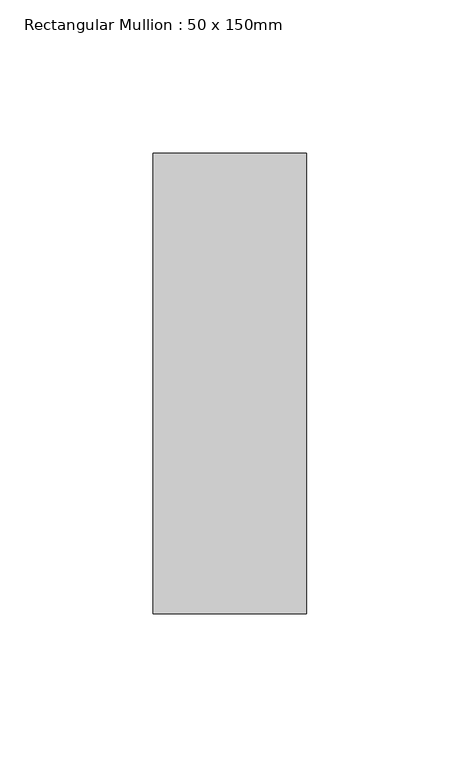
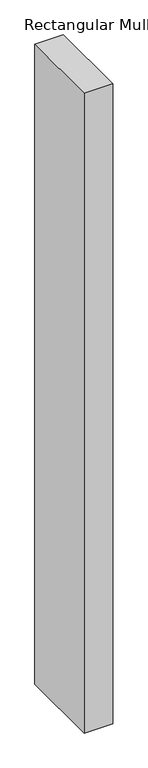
"""IFC4 building model written with IfcOpenShell, lengths in millimetres: member geometry, Rectangular Mullion : 50 x 150mm."""

from ifc_helpers import new_model, si_unit, frame, origin, place, context, project, spatial, polyline, outline, extrude, source, transform, mapped, element, save


def rectangular_mullion_50_x_150mm_b8843238(model_context):
    return source(origin(), model_context, "Body", "SweptSolid", [
        extrude(outline(polyline([(0.0, 75.0), (0.0, -75.0), (-50.0, -75.0), (-50.0, 75.0), (0.0, 75.0)])), frame((0.0, 0.0, -1187.4117105), z_axis=(0.0, 0.0, 1.0), x_axis=(1.0, 0.0, 0.0)), (0.0, 0.0, 1.0), 1187.4117105),
    ])


if __name__ == "__main__":
    model = new_model("IFC4")
    model_context = context("Model", 3, world=origin())
    ifc_project = project(units=[si_unit("LENGTHUNIT", "METRE", prefix="MILLI")], contexts=[model_context])
    site = spatial("IfcSite", under=ifc_project)
    building = spatial("IfcBuilding", under=site)
    placement = place(None, origin())
    rectangular_mullion_50_x_150mm_shape = rectangular_mullion_50_x_150mm_b8843238(model_context)
    element("IfcMember", 1, ObjectType="Rectangular Mullion : 50 x 150mm", at=placement, inside=building, context=model_context, shape_type="MappedRepresentation", body=[
        mapped(rectangular_mullion_50_x_150mm_shape, transform((0.0, 0.0, 0.0), x_axis=(1.0, 0.0, 0.0), y_axis=(0.0, 1.0, 0.0), z_axis=(0.0, 0.0, 1.0))),
    ])
    save(model, "model.ifc")
